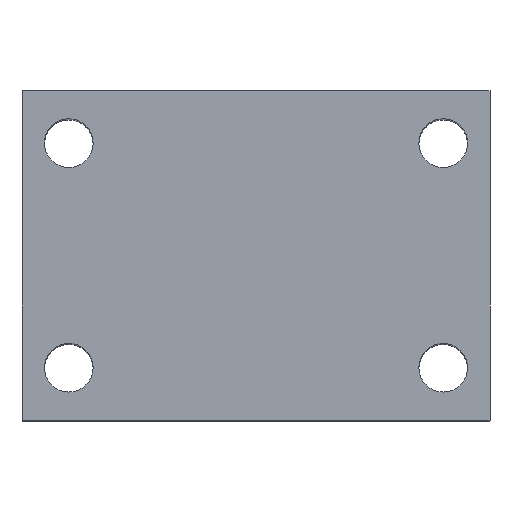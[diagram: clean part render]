
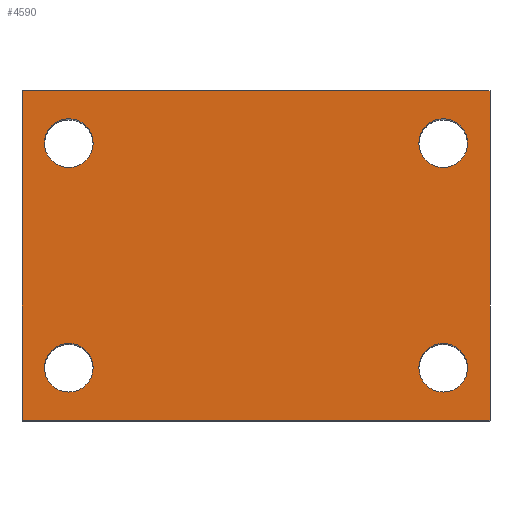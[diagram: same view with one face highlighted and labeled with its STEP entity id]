
A CAD part, top view. The second image highlights one B-rep face of the part: STEP entity #4590.
In plain terms, the highlighted planar face has unit normal (0, 0, 1).
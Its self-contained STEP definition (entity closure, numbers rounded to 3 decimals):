
#342 = ORIENTED_EDGE ( 'NONE', *, *, #11251, .T. ) ;
#596 = PLANE ( 'NONE',  #10032 ) ;
#598 = DIRECTION ( 'NONE',  ( 0., 0., -1. ) ) ;
#643 = VERTEX_POINT ( 'NONE', #11825 ) ;
#693 = CIRCLE ( 'NONE', #12502, 6.5 ) ;
#795 = DIRECTION ( 'NONE',  ( 0., 0., -1. ) ) ;
#868 = CARTESIAN_POINT ( 'NONE',  ( -62.5, 0., 50. ) ) ;
#1025 = CARTESIAN_POINT ( 'NONE',  ( -43.5, 14., 50. ) ) ;
#1096 = LINE ( 'NONE', #2278, #17583 ) ;
#1262 = CIRCLE ( 'NONE', #15469, 6.5 ) ;
#1548 = VERTEX_POINT ( 'NONE', #18717 ) ;
#2105 = CARTESIAN_POINT ( 'NONE',  ( -62.5, 88., 50. ) ) ;
#2233 = CARTESIAN_POINT ( 'NONE',  ( -62.5, 88., 50. ) ) ;
#2243 = CIRCLE ( 'NONE', #12074, 6.5 ) ;
#2278 = CARTESIAN_POINT ( 'NONE',  ( -62.5, 88., 50. ) ) ;
#2702 = ORIENTED_EDGE ( 'NONE', *, *, #3270, .T. ) ;
#2929 = FACE_BOUND ( 'NONE', #12990, .T. ) ;
#3114 = AXIS2_PLACEMENT_3D ( 'NONE', #14691, #6183, #16148 ) ;
#3215 = DIRECTION ( 'NONE',  ( 0., -1., 0. ) ) ;
#3270 = EDGE_CURVE ( 'NONE', #4203, #10165, #2243, .T. ) ;
#3319 = ORIENTED_EDGE ( 'NONE', *, *, #12418, .F. ) ;
#3398 = CARTESIAN_POINT ( 'NONE',  ( 62.5, 88., 50. ) ) ;
#3409 = EDGE_CURVE ( 'NONE', #6117, #9212, #8120, .T. ) ;
#3415 = VECTOR ( 'NONE', #10990, 1000. ) ;
#3424 = ORIENTED_EDGE ( 'NONE', *, *, #3549, .T. ) ;
#3549 = EDGE_CURVE ( 'NONE', #10548, #7191, #14358, .T. ) ;
#3618 = DIRECTION ( 'NONE',  ( -1., 0., 0. ) ) ;
#3794 = VERTEX_POINT ( 'NONE', #17878 ) ;
#3915 = DIRECTION ( 'NONE',  ( 0., 0., -1. ) ) ;
#4203 = VERTEX_POINT ( 'NONE', #18198 ) ;
#4206 = DIRECTION ( 'NONE',  ( 0., 0., -1. ) ) ;
#4373 = AXIS2_PLACEMENT_3D ( 'NONE', #12475, #3915, #13911 ) ;
#4393 = DIRECTION ( 'NONE',  ( 0., 0., -1. ) ) ;
#4590 = ADVANCED_FACE ( 'NONE', ( #17755, #2929, #6799, #10078, #6355 ), #596, .F. ) ;
#5238 = EDGE_CURVE ( 'NONE', #6690, #1548, #1262, .T. ) ;
#5394 = ORIENTED_EDGE ( 'NONE', *, *, #11173, .T. ) ;
#5552 = CARTESIAN_POINT ( 'NONE',  ( -50., 14., 50. ) ) ;
#5858 = DIRECTION ( 'NONE',  ( 0., 0., -1. ) ) ;
#6113 = CARTESIAN_POINT ( 'NONE',  ( 43.5, 14., 50. ) ) ;
#6117 = VERTEX_POINT ( 'NONE', #6113 ) ;
#6183 = DIRECTION ( 'NONE',  ( 0., 0., -1. ) ) ;
#6355 = FACE_OUTER_BOUND ( 'NONE', #8363, .T. ) ;
#6690 = VERTEX_POINT ( 'NONE', #9946 ) ;
#6799 = FACE_BOUND ( 'NONE', #7255, .T. ) ;
#7001 = DIRECTION ( 'NONE',  ( -1., 0., 0. ) ) ;
#7191 = VERTEX_POINT ( 'NONE', #7335 ) ;
#7198 = ORIENTED_EDGE ( 'NONE', *, *, #9411, .T. ) ;
#7255 = EDGE_LOOP ( 'NONE', ( #9878, #7198 ) ) ;
#7335 = CARTESIAN_POINT ( 'NONE',  ( 62.5, 0., 50. ) ) ;
#7512 = AXIS2_PLACEMENT_3D ( 'NONE', #9466, #795, #10908 ) ;
#7570 = CIRCLE ( 'NONE', #14405, 6.5 ) ;
#8120 = CIRCLE ( 'NONE', #3114, 6.5 ) ;
#8302 = EDGE_LOOP ( 'NONE', ( #11974, #9751 ) ) ;
#8362 = LINE ( 'NONE', #2233, #12613 ) ;
#8363 = EDGE_LOOP ( 'NONE', ( #3424, #3319, #13398, #10260 ) ) ;
#8473 = CIRCLE ( 'NONE', #16818, 6.5 ) ;
#9212 = VERTEX_POINT ( 'NONE', #15693 ) ;
#9227 = CARTESIAN_POINT ( 'NONE',  ( -43.5, 74., 50. ) ) ;
#9245 = VERTEX_POINT ( 'NONE', #17204 ) ;
#9259 = CARTESIAN_POINT ( 'NONE',  ( -62.5, 0., 50. ) ) ;
#9273 = CARTESIAN_POINT ( 'NONE',  ( 50., 14., 50. ) ) ;
#9411 = EDGE_CURVE ( 'NONE', #9212, #6117, #8473, .T. ) ;
#9460 = EDGE_LOOP ( 'NONE', ( #2702, #342 ) ) ;
#9466 = CARTESIAN_POINT ( 'NONE',  ( -50., 14., 50. ) ) ;
#9512 = VECTOR ( 'NONE', #3215, 1000. ) ;
#9751 = ORIENTED_EDGE ( 'NONE', *, *, #5238, .T. ) ;
#9878 = ORIENTED_EDGE ( 'NONE', *, *, #3409, .T. ) ;
#9946 = CARTESIAN_POINT ( 'NONE',  ( 56.5, 74., 50. ) ) ;
#9955 = LINE ( 'NONE', #3398, #9512 ) ;
#10032 = AXIS2_PLACEMENT_3D ( 'NONE', #2105, #12158, #3618 ) ;
#10078 = FACE_BOUND ( 'NONE', #8302, .T. ) ;
#10165 = VERTEX_POINT ( 'NONE', #9227 ) ;
#10260 = ORIENTED_EDGE ( 'NONE', *, *, #15656, .T. ) ;
#10548 = VERTEX_POINT ( 'NONE', #9259 ) ;
#10724 = DIRECTION ( 'NONE',  ( -1., 0., 0. ) ) ;
#10908 = DIRECTION ( 'NONE',  ( -1., 0., 0. ) ) ;
#10990 = DIRECTION ( 'NONE',  ( 1., 0., 0. ) ) ;
#11173 = EDGE_CURVE ( 'NONE', #9245, #15110, #693, .T. ) ;
#11251 = EDGE_CURVE ( 'NONE', #10165, #4203, #7570, .T. ) ;
#11264 = ORIENTED_EDGE ( 'NONE', *, *, #14399, .T. ) ;
#11825 = CARTESIAN_POINT ( 'NONE',  ( -62.5, 88., 50. ) ) ;
#11974 = ORIENTED_EDGE ( 'NONE', *, *, #13250, .T. ) ;
#12074 = AXIS2_PLACEMENT_3D ( 'NONE', #12948, #4393, #14374 ) ;
#12158 = DIRECTION ( 'NONE',  ( 0., 0., -1. ) ) ;
#12418 = EDGE_CURVE ( 'NONE', #3794, #7191, #9955, .T. ) ;
#12475 = CARTESIAN_POINT ( 'NONE',  ( 50., 74., 50. ) ) ;
#12502 = AXIS2_PLACEMENT_3D ( 'NONE', #5552, #15531, #7001 ) ;
#12613 = VECTOR ( 'NONE', #16614, 1000. ) ;
#12764 = CARTESIAN_POINT ( 'NONE',  ( -50., 74., 50. ) ) ;
#12948 = CARTESIAN_POINT ( 'NONE',  ( -50., 74., 50. ) ) ;
#12990 = EDGE_LOOP ( 'NONE', ( #5394, #11264 ) ) ;
#13250 = EDGE_CURVE ( 'NONE', #1548, #6690, #18077, .T. ) ;
#13398 = ORIENTED_EDGE ( 'NONE', *, *, #15047, .F. ) ;
#13911 = DIRECTION ( 'NONE',  ( -1., 0., 0. ) ) ;
#14185 = DIRECTION ( 'NONE',  ( -1., 0., 0. ) ) ;
#14358 = LINE ( 'NONE', #868, #3415 ) ;
#14374 = DIRECTION ( 'NONE',  ( -1., 0., 0. ) ) ;
#14375 = CARTESIAN_POINT ( 'NONE',  ( 50., 74., 50. ) ) ;
#14399 = EDGE_CURVE ( 'NONE', #15110, #9245, #14862, .T. ) ;
#14405 = AXIS2_PLACEMENT_3D ( 'NONE', #12764, #4206, #14185 ) ;
#14691 = CARTESIAN_POINT ( 'NONE',  ( 50., 14., 50. ) ) ;
#14862 = CIRCLE ( 'NONE', #7512, 6.5 ) ;
#15047 = EDGE_CURVE ( 'NONE', #643, #3794, #1096, .T. ) ;
#15110 = VERTEX_POINT ( 'NONE', #1025 ) ;
#15469 = AXIS2_PLACEMENT_3D ( 'NONE', #14375, #5858, #15831 ) ;
#15531 = DIRECTION ( 'NONE',  ( 0., 0., -1. ) ) ;
#15656 = EDGE_CURVE ( 'NONE', #643, #10548, #8362, .T. ) ;
#15693 = CARTESIAN_POINT ( 'NONE',  ( 56.5, 14., 50. ) ) ;
#15831 = DIRECTION ( 'NONE',  ( -1., 0., 0. ) ) ;
#16148 = DIRECTION ( 'NONE',  ( -1., 0., 0. ) ) ;
#16614 = DIRECTION ( 'NONE',  ( 0., -1., 0. ) ) ;
#16818 = AXIS2_PLACEMENT_3D ( 'NONE', #9273, #598, #10724 ) ;
#17204 = CARTESIAN_POINT ( 'NONE',  ( -56.5, 14., 50. ) ) ;
#17583 = VECTOR ( 'NONE', #18081, 1000. ) ;
#17755 = FACE_BOUND ( 'NONE', #9460, .T. ) ;
#17878 = CARTESIAN_POINT ( 'NONE',  ( 62.5, 88., 50. ) ) ;
#18077 = CIRCLE ( 'NONE', #4373, 6.5 ) ;
#18081 = DIRECTION ( 'NONE',  ( 1., 0., 0. ) ) ;
#18198 = CARTESIAN_POINT ( 'NONE',  ( -56.5, 74., 50. ) ) ;
#18717 = CARTESIAN_POINT ( 'NONE',  ( 43.5, 74., 50. ) ) ;
